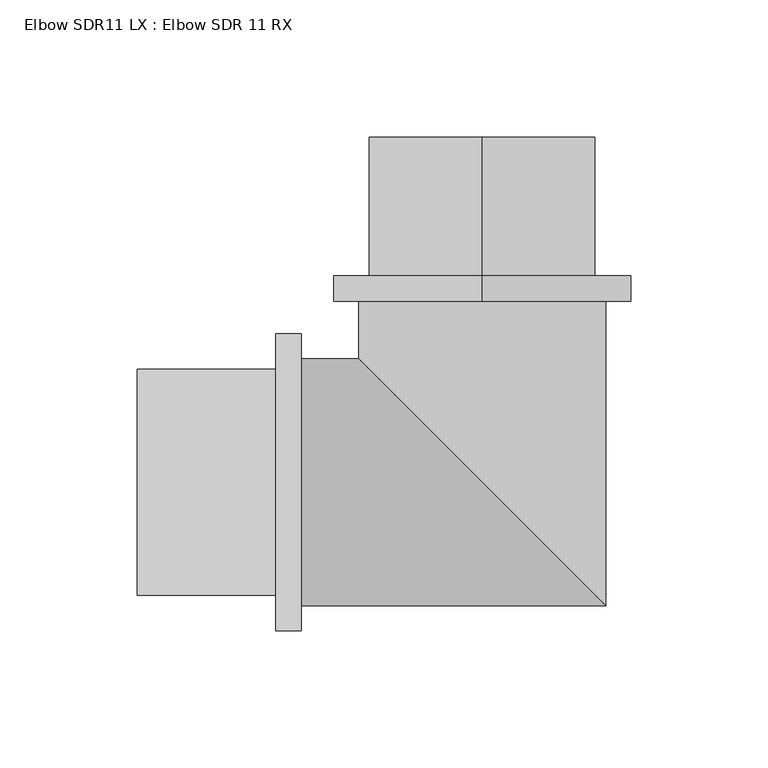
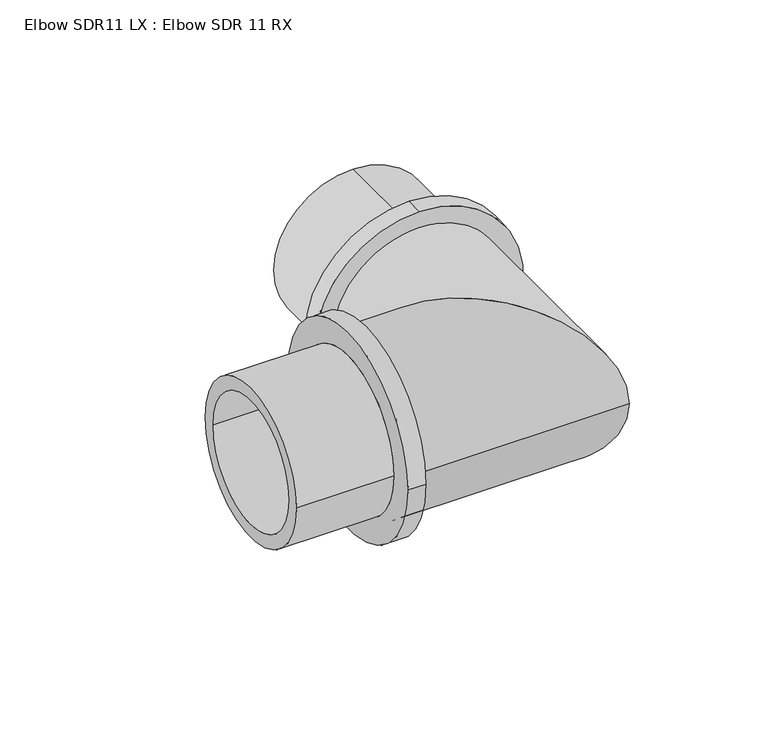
"""IFC4 building model written with IfcOpenShell, lengths in millimetres: pipe fitting geometry, Elbow SDR11 LX : Elbow SDR 11 RX."""

from ifc_helpers import new_model, si_unit, frame, origin, place, context, project, spatial, polyline, circle_curve, ellipse_curve, source, transform, mapped, element, save
from ifc_brep_helpers import plane_surface, cylinder_surface, revolved_surface, advanced_brep


def elbow_sdr11_lx_elbow_sdr_11_rx_8269fb62(model_context):
    return source(origin(), model_context, "Body", "AdvancedBrep", [
        advanced_brep(
        [(-65.9, -45.0, 0.0), (-65.9, 45.0, 0.0), (-65.9, -34.0, 0.0), (-65.9, 34.0, 0.0), (45.0, -45.0, 0.0), (-45.0, 45.0, 0.0), (34.0, -34.0, 0.0), (-34.0, 34.0, 0.0), (45.0, 65.9, 0.0), (-45.0, 65.9, 0.0), (34.0, 65.9, 0.0), (-34.0, 65.9, 0.0)],
        [
            (0, 1, circle_curve(frame((-65.9, 0.0, 0.0), z_axis=(-1.0, 0.0, 0.0), x_axis=(0.0, 1.0, 0.0)), 45.0)),
            (1, 0, circle_curve(frame((-65.9, 0.0, 0.0), z_axis=(-1.0, 0.0, 0.0), x_axis=(0.0, 1.0, 0.0)), 45.0)),
            (2, 3, circle_curve(frame((-65.9, 0.0, 0.0), z_axis=(1.0, 0.0, 0.0), x_axis=(0.0, 1.0, 0.0)), 34.0)),
            (3, 2, circle_curve(frame((-65.9, 0.0, 0.0), z_axis=(1.0, 0.0, 0.0), x_axis=(0.0, 1.0, 0.0)), 34.0)),
            (0, 4),
            (4, 5, ellipse_curve(frame((0.0, 0.0, 0.0), z_axis=(-0.7071067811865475, -0.7071067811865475, 0.0), x_axis=(-0.7071067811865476, 0.7071067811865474, 0.0)), 63.6396103, 45.0)),
            (5, 1),
            (5, 4, ellipse_curve(frame((0.0, 0.0, 0.0), z_axis=(-0.7071067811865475, -0.7071067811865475, 0.0), x_axis=(-0.7071067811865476, 0.7071067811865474, 0.0)), 63.6396103, 45.0)),
            (2, 6),
            (6, 7, ellipse_curve(frame((0.0, 0.0, 0.0), z_axis=(0.7071067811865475, 0.7071067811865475, 0.0), x_axis=(0.7071067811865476, -0.7071067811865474, 0.0)), 48.0832611, 34.0)),
            (7, 3),
            (7, 6, ellipse_curve(frame((0.0, 0.0, 0.0), z_axis=(0.7071067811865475, 0.7071067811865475, 0.0), x_axis=(0.7071067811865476, -0.7071067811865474, 0.0)), 48.0832611, 34.0)),
            (8, 9, circle_curve(frame((0.0, 65.9, 0.0), z_axis=(0.0, 1.0, 0.0), x_axis=(-1.0, 0.0, 0.0)), 45.0)),
            (9, 8, circle_curve(frame((0.0, 65.9, 0.0), z_axis=(0.0, 1.0, 0.0), x_axis=(-1.0, 0.0, 0.0)), 45.0)),
            (10, 11, circle_curve(frame((0.0, 65.9, 0.0), z_axis=(0.0, -1.0, 0.0), x_axis=(-1.0, 0.0, 0.0)), 34.0)),
            (11, 10, circle_curve(frame((0.0, 65.9, 0.0), z_axis=(0.0, -1.0, 0.0), x_axis=(-1.0, 0.0, 0.0)), 34.0)),
            (4, 8),
            (9, 5),
            (6, 10),
            (11, 7),
        ],
        [
            plane_surface(frame((-65.9, 0.0, 0.0), z_axis=(-1.0, 0.0, 0.0), x_axis=(0.0, 0.0, 1.0))),
            cylinder_surface(frame((-65.9, 0.0, 0.0), z_axis=(-1.0, 0.0, 0.0), x_axis=(0.0, 1.0, 0.0)), 45.0),
            revolved_surface(polyline([(34.0, 34.0, 0.0), (-65.9, 34.0, 0.0)]), (-65.9, 0.0, 0.0), (1.0, 0.0, 0.0)),
            plane_surface(frame((0.0, 65.9, 0.0), z_axis=(0.0, 1.0, 0.0), x_axis=(0.0, 0.0, 1.0))),
            cylinder_surface(frame((0.0, 0.0, 0.0), z_axis=(0.0, -1.0, 0.0), x_axis=(-1.0, 0.0, 0.0)), 45.0),
            revolved_surface(polyline([(-34.0, 65.9, 0.0), (-34.0, -34.0, 0.0)]), (0.0, 0.0, 0.0), (0.0, 1.0, 0.0)),
        ],
        [
            (0, [[1, 2], [3, 4]]),
            (1, [[-1, 5, 6, 7]]),
            (1, [[-2, -7, 8, -5]]),
            (2, [[-3, 9, 10, 11]]),
            (2, [[-4, -11, 12, -9]]),
            (3, [[13, 14], [15, 16]]),
            (4, [[-6, 17, -14, 18]]),
            (4, [[-8, -18, -13, -17]]),
            (5, [[-10, 19, -16, 20]]),
            (5, [[-12, -20, -15, -19]]),
        ],
    ),
        advanced_brep(
        [(0.0, 125.5, 34.0), (0.0, 125.5, -34.0), (0.0, 65.9, -34.0), (0.0, 65.9, 34.0), (0.0, 75.1, 41.1), (0.0, 75.1, -41.1), (0.0, 125.5, -41.1), (0.0, 125.5, 41.1), (0.0, 65.9, 54.0), (0.0, 65.9, -54.0), (0.0, 75.1, -54.0), (0.0, 75.1, 54.0)],
        [
            (0, 1, circle_curve(frame((0.0, 125.5, 0.0), z_axis=(0.0, 1.0, 0.0), x_axis=(0.0, 0.0, -1.0)), 34.0)),
            (1, 2),
            (2, 3, circle_curve(frame((0.0, 65.9, 0.0), z_axis=(0.0, -1.0, 0.0), x_axis=(0.0, 0.0, -1.0)), 34.0)),
            (3, 0),
            (4, 5, circle_curve(frame((0.0, 75.1, 0.0), z_axis=(0.0, 1.0, 0.0), x_axis=(0.0, 0.0, -1.0)), 41.1)),
            (5, 6),
            (6, 7, circle_curve(frame((0.0, 125.5, 0.0), z_axis=(0.0, -1.0, 0.0), x_axis=(0.0, 0.0, -1.0)), 41.1)),
            (7, 4),
            (8, 9, circle_curve(frame((0.0, 65.9, 0.0), z_axis=(0.0, 1.0, 0.0), x_axis=(0.0, 0.0, -1.0)), 54.0)),
            (9, 10),
            (10, 11, circle_curve(frame((0.0, 75.1, 0.0), z_axis=(0.0, -1.0, 0.0), x_axis=(0.0, 0.0, -1.0)), 54.0)),
            (11, 8),
            (1, 0, circle_curve(frame((0.0, 125.5, 0.0), z_axis=(0.0, 1.0, 0.0), x_axis=(0.0, 0.0, 1.0)), 34.0)),
            (3, 2, circle_curve(frame((0.0, 65.9, 0.0), z_axis=(0.0, -1.0, 0.0), x_axis=(0.0, 0.0, 1.0)), 34.0)),
            (6, 7, circle_curve(frame((0.0, 125.5, 0.0), z_axis=(0.0, 1.0, 0.0), x_axis=(0.0, 0.0, 1.0)), 41.1)),
            (5, 4, circle_curve(frame((0.0, 75.1, 0.0), z_axis=(0.0, 1.0, 0.0), x_axis=(0.0, 0.0, 1.0)), 41.1)),
            (10, 11, circle_curve(frame((0.0, 75.1, 0.0), z_axis=(0.0, 1.0, 0.0), x_axis=(0.0, 0.0, 1.0)), 54.0)),
            (9, 8, circle_curve(frame((0.0, 65.9, 0.0), z_axis=(0.0, 1.0, 0.0), x_axis=(0.0, 0.0, 1.0)), 54.0)),
        ],
        [
            revolved_surface(polyline([(0.0, 65.9, -34.0), (0.0, 125.5, -34.0)]), (0.0, 0.0, 0.0), (0.0, -1.0, 0.0)),
            cylinder_surface(frame((0.0, 0.0, 0.0), z_axis=(0.0, -1.0, 0.0), x_axis=(0.0, 0.0, -1.0)), 41.1),
            cylinder_surface(frame((0.0, 0.0, 0.0), z_axis=(0.0, -1.0, 0.0), x_axis=(0.0, 0.0, -1.0)), 54.0),
            revolved_surface(polyline([(0.0, 65.9, 34.0), (0.0, 125.5, 34.0)]), (0.0, 0.0, 0.0), (0.0, -1.0, 0.0)),
            plane_surface(frame((0.0, 125.5, 0.0), z_axis=(0.0, 1.0, 0.0), x_axis=(0.0, 0.0, 1.0))),
            cylinder_surface(frame((0.0, 0.0, 0.0), z_axis=(0.0, -1.0, 0.0), x_axis=(0.0, 0.0, 1.0)), 41.1),
            plane_surface(frame((0.0, 75.1, 0.0), z_axis=(0.0, 1.0, 0.0), x_axis=(0.0, 0.0, 1.0))),
            cylinder_surface(frame((0.0, 0.0, 0.0), z_axis=(0.0, -1.0, 0.0), x_axis=(0.0, 0.0, 1.0)), 54.0),
            plane_surface(frame((0.0, 65.9, 0.0), z_axis=(0.0, -1.0, 0.0), x_axis=(0.0, 0.0, 1.0))),
        ],
        [
            (0, [[1, 2, 3, 4]]),
            (1, [[5, 6, 7, 8]]),
            (2, [[9, 10, 11, 12]]),
            (3, [[13, -4, 14, -2]]),
            (4, [[15, -7], [-13, -1]]),
            (5, [[16, -8, -15, -6]]),
            (6, [[17, -11], [-16, -5]]),
            (7, [[18, -12, -17, -10]]),
            (8, [[-18, -9], [-14, -3]]),
        ],
    ),
        advanced_brep(
        [(-65.9, 54.0, 0.0), (-65.9, -54.0, 0.0), (-75.1, -54.0, 0.0), (-75.1, 54.0, 0.0), (-75.1, 41.1, 0.0), (-75.1, -41.1, 0.0), (-125.5, -41.1, 0.0), (-125.5, 41.1, 0.0), (-125.5, 34.0, 0.0), (-125.5, -34.0, 0.0), (-65.9, -34.0, 0.0), (-65.9, 34.0, 0.0)],
        [
            (0, 1, circle_curve(frame((-65.9, 0.0, 0.0), z_axis=(-1.0, 0.0, 0.0), x_axis=(0.0, -1.0, 0.0)), 54.0)),
            (1, 2),
            (2, 3, circle_curve(frame((-75.1, 0.0, 0.0), z_axis=(1.0, 0.0, 0.0), x_axis=(0.0, -1.0, 0.0)), 54.0)),
            (3, 0),
            (4, 5, circle_curve(frame((-75.1, 0.0, 0.0), z_axis=(-1.0, 0.0, 0.0), x_axis=(0.0, -1.0, 0.0)), 41.1)),
            (5, 6),
            (6, 7, circle_curve(frame((-125.5, 0.0, 0.0), z_axis=(1.0, 0.0, 0.0), x_axis=(0.0, -1.0, 0.0)), 41.1)),
            (7, 4),
            (8, 9, circle_curve(frame((-125.5, 0.0, 0.0), z_axis=(-1.0, 0.0, 0.0), x_axis=(0.0, -1.0, 0.0)), 34.0)),
            (9, 10),
            (10, 11, circle_curve(frame((-65.9, 0.0, 0.0), z_axis=(1.0, 0.0, 0.0), x_axis=(0.0, -1.0, 0.0)), 34.0)),
            (11, 8),
            (0, 1, circle_curve(frame((-65.9, 0.0, 0.0), z_axis=(1.0, 0.0, 0.0), x_axis=(0.0, 1.0, 0.0)), 54.0)),
            (10, 11, circle_curve(frame((-65.9, 0.0, 0.0), z_axis=(-1.0, 0.0, 0.0), x_axis=(0.0, 1.0, 0.0)), 34.0)),
            (3, 2, circle_curve(frame((-75.1, 0.0, 0.0), z_axis=(1.0, 0.0, 0.0), x_axis=(0.0, 1.0, 0.0)), 54.0)),
            (4, 5, circle_curve(frame((-75.1, 0.0, 0.0), z_axis=(1.0, 0.0, 0.0), x_axis=(0.0, 1.0, 0.0)), 41.1)),
            (7, 6, circle_curve(frame((-125.5, 0.0, 0.0), z_axis=(1.0, 0.0, 0.0), x_axis=(0.0, 1.0, 0.0)), 41.1)),
            (8, 9, circle_curve(frame((-125.5, 0.0, 0.0), z_axis=(1.0, 0.0, 0.0), x_axis=(0.0, 1.0, 0.0)), 34.0)),
        ],
        [
            cylinder_surface(frame((0.0, 0.0, 0.0), z_axis=(1.0, 0.0, 0.0), x_axis=(0.0, -1.0, 0.0)), 54.0),
            cylinder_surface(frame((0.0, 0.0, 0.0), z_axis=(1.0, 0.0, 0.0), x_axis=(0.0, -1.0, 0.0)), 41.1),
            revolved_surface(polyline([(-65.9, -34.0, 0.0), (-125.5, -34.0, 0.0)]), (0.0, 0.0, 0.0), (1.0, 0.0, 0.0)),
            plane_surface(frame((-65.9, 0.0, 0.0), z_axis=(1.0, 0.0, 0.0), x_axis=(0.0, 1.0, 0.0))),
            cylinder_surface(frame((0.0, 0.0, 0.0), z_axis=(1.0, 0.0, 0.0), x_axis=(0.0, 1.0, 0.0)), 54.0),
            plane_surface(frame((-75.1, 0.0, 0.0), z_axis=(-1.0, 0.0, 0.0), x_axis=(0.0, 1.0, 0.0))),
            cylinder_surface(frame((0.0, 0.0, 0.0), z_axis=(1.0, 0.0, 0.0), x_axis=(0.0, 1.0, 0.0)), 41.1),
            plane_surface(frame((-125.5, 0.0, 0.0), z_axis=(-1.0, 0.0, 0.0), x_axis=(0.0, 1.0, 0.0))),
            revolved_surface(polyline([(-65.9, 34.0, 0.0), (-125.5, 34.0, 0.0)]), (0.0, 0.0, 0.0), (1.0, 0.0, 0.0)),
        ],
        [
            (0, [[1, 2, 3, 4]]),
            (1, [[5, 6, 7, 8]]),
            (2, [[9, 10, 11, 12]]),
            (3, [[13, -1], [14, -11]]),
            (4, [[-13, -4, 15, -2]]),
            (5, [[-15, -3], [16, -5]]),
            (6, [[-16, -8, 17, -6]]),
            (7, [[-17, -7], [18, -9]]),
            (8, [[-18, -12, -14, -10]]),
        ],
    ),
    ])


if __name__ == "__main__":
    model = new_model("IFC4")
    model_context = context("Model", 3, world=origin())
    ifc_project = project(units=[si_unit("LENGTHUNIT", "METRE", prefix="MILLI")], contexts=[model_context])
    site = spatial("IfcSite", under=ifc_project)
    building = spatial("IfcBuilding", under=site)
    placement = place(None, origin())
    elbow_sdr11_lx_elbow_sdr_11_rx_shape = elbow_sdr11_lx_elbow_sdr_11_rx_8269fb62(model_context)
    element("IfcPipeFitting", 1, ObjectType="Elbow SDR11 LX : Elbow SDR 11 RX", at=placement, inside=building, context=model_context, shape_type="MappedRepresentation", body=[
        mapped(elbow_sdr11_lx_elbow_sdr_11_rx_shape, transform((0.0, 0.0, 0.0), x_axis=(1.0, 0.0, 0.0), y_axis=(0.0, 1.0, 0.0), z_axis=(0.0, 0.0, 1.0))),
    ])
    save(model, "model.ifc")
